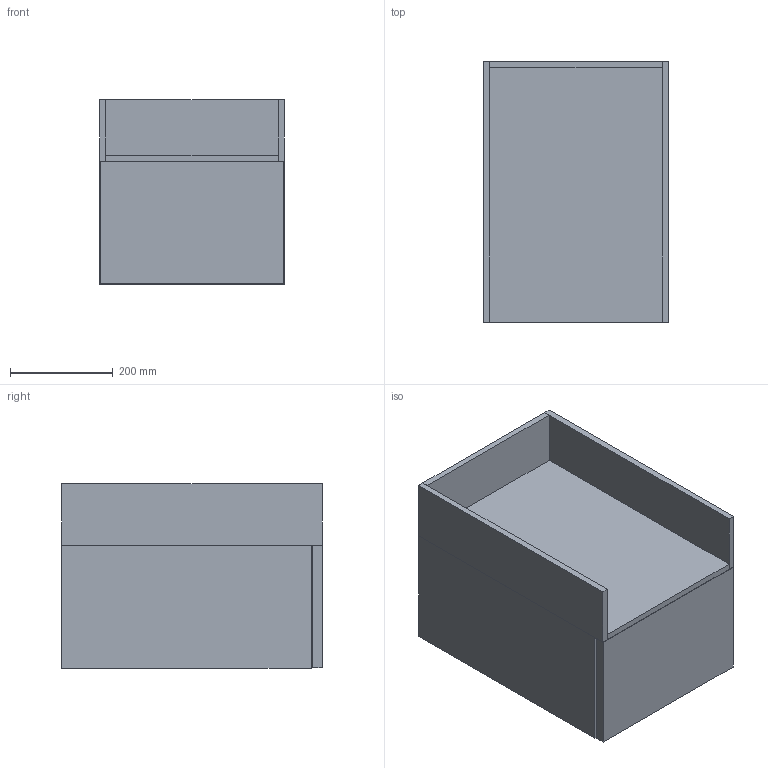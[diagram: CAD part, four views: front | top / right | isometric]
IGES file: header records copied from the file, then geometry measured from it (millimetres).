
Start section: Data from Parasolid IGES Translator 19.0.9, Copyright(c) 2006 Siemens PL M Software. All Rights Reserved.
Global section: file name: noorth-SI-H 36 D 51 W 36_8373.igs; native system: By Siemens PLM Incorporated; preprocessor: XPlus GENERIC/IGES 19.0.9; author: Noname; organization: Noname; date: 20200601.095913; units: metre
Bounding box: 360.01 x 508 x 360 mm (x, y, z)
Volume: 14622908.5 mm3; surface area: 2258445.7 mm2
Topology: 10 solids, 10 shells, 60 faces, 120 edges, 80 vertices
Faces by surface type: plane 60
